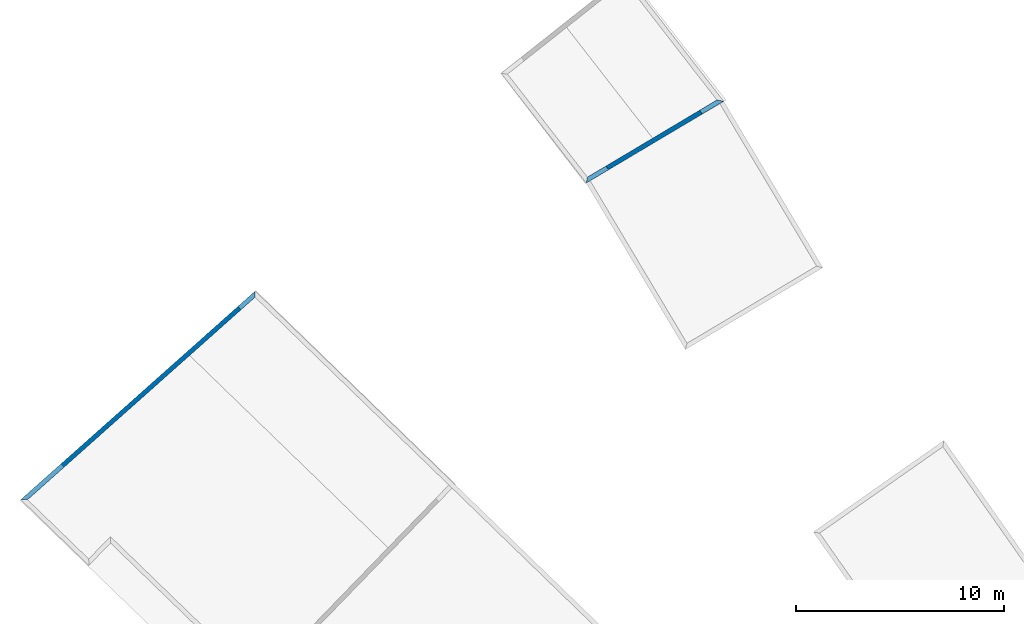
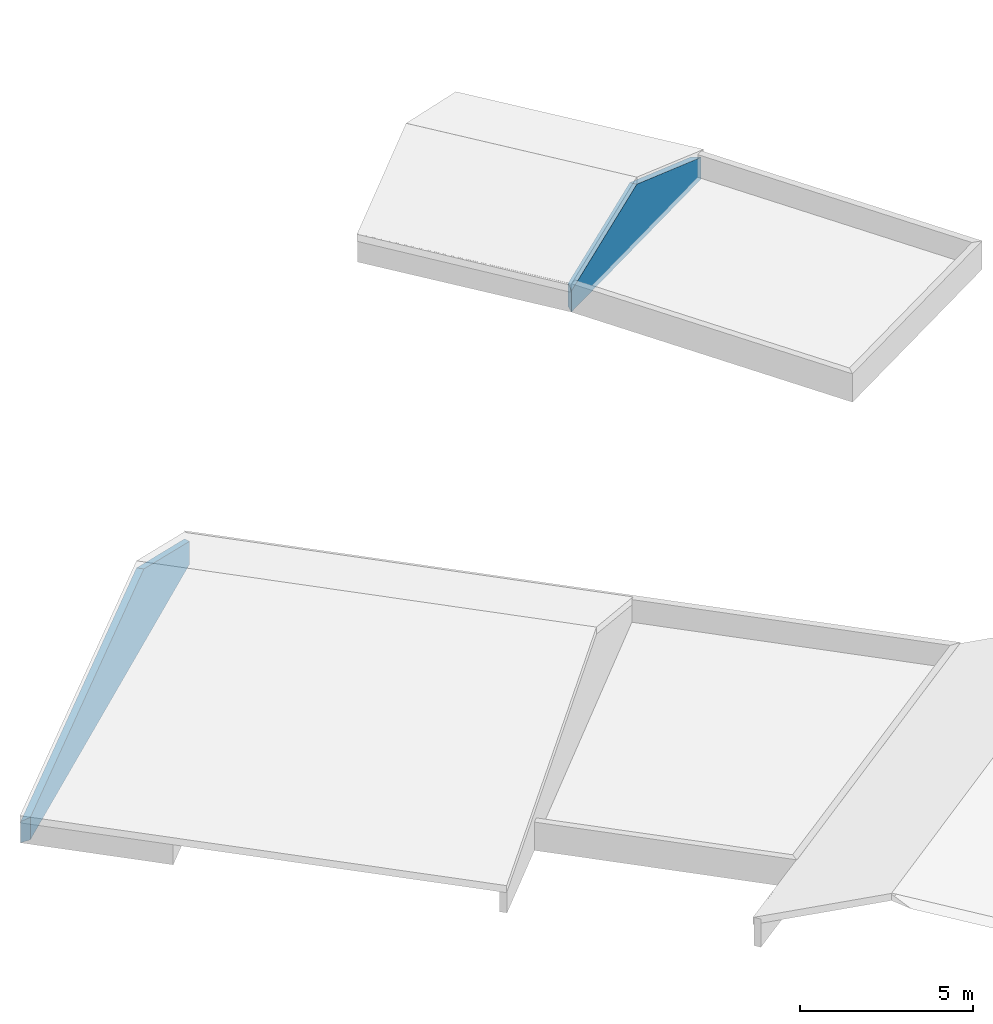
# One storey, part 4 of 4: 2 walls.
"""IFC2X3 building model written with IfcOpenShell, lengths in metres."""

from ifc_helpers import new_model, entity, si_unit, converted_unit, derived_unit, money_unit, direction, frame, origin_with_axes, place, context, subcontext, project, spatial, polyline, outline, extrude, boolean, faceted_brep, material, type_object, element, save


model = new_model("IFC2X3")

# Units and contexts
model_context = context("Model", 3, precision=1e-05, world=origin_with_axes(), true_north=direction((0.0, 1.0)))
body_context = subcontext(model_context, "Body", "Model", "MODEL_VIEW")
ifc_project = project(units=[si_unit("LENGTHUNIT", "METRE"), si_unit("AREAUNIT", "SQUARE_METRE"), si_unit("VOLUMEUNIT", "CUBIC_METRE"), converted_unit("PLANEANGLEUNIT", "DEGREE", entity("IfcPlaneAngleMeasure", 0.0174532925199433), si_unit("PLANEANGLEUNIT", "RADIAN"), dimensions=[0, 0, 0, 0, 0, 0, 0]), money_unit("CHF"), converted_unit("TIMEUNIT", "Year", entity("IfcTimeMeasure", 31557600.0), si_unit("TIMEUNIT", "SECOND"), dimensions=[0, 0, 1, 0, 0, 0, 0]), si_unit("MASSUNIT", "GRAM", prefix="KILO"), si_unit("THERMODYNAMICTEMPERATUREUNIT", "DEGREE_CELSIUS"), si_unit("LUMINOUSINTENSITYUNIT", "LUMEN"), si_unit("ENERGYUNIT", "JOULE", prefix="MEGA"), derived_unit("THERMALCONDUCTANCEUNIT", [(si_unit("POWERUNIT", "WATT"), 1), (si_unit("LENGTHUNIT", "METRE"), -1), (si_unit("THERMODYNAMICTEMPERATUREUNIT", "KELVIN"), -1)]), derived_unit("SPECIFICHEATCAPACITYUNIT", [(si_unit("ENERGYUNIT", "JOULE"), 1), (si_unit("MASSUNIT", "GRAM", prefix="KILO"), -1), (si_unit("THERMODYNAMICTEMPERATUREUNIT", "KELVIN"), -1)]), derived_unit("MASSDENSITYUNIT", [(si_unit("MASSUNIT", "GRAM", prefix="KILO"), 1), (si_unit("VOLUMEUNIT", "CUBIC_METRE"), -1)])], contexts=[model_context])

# Site, building, storey
site_placement = place(None, origin_with_axes())
site = spatial("IfcSite", under=ifc_project, at=site_placement, Name="Site", CompositionType="ELEMENT")
building_placement = place(site_placement, origin_with_axes())
building = spatial("IfcBuilding", under=site, at=building_placement, Name="Bâtiment", CompositionType="ELEMENT")
storey_placement = place(building_placement, frame((0.0, 0.0, 5.5), z_axis=(0.0, 0.0, 1.0), x_axis=(1.0, 0.0, 0.0)))
storey = spatial("IfcBuildingStorey", under=building, at=storey_placement, Name="Etage 2", CompositionType="ELEMENT", Elevation=5.5)

# Walls
ifc_material = material(Name="Empty Fill 3000033799")
wall_type = type_object("IfcWallType", Name="acrotère 22 220", PredefinedType="NOTDEFINED")
wall_1_placement = place(storey_placement, frame((9522.52805632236, -1052.392567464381, 57.7), z_axis=(0.0, 0.0, 1.0), x_axis=(-0.7470589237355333, -0.6647578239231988, 0.0)))
element("IfcWall", 1, at=wall_1_placement, inside=storey, type_object=wall_type, material=ifc_material, Name="Mur-133", context=body_context, shape_type="CSG", body=[
    boolean("DIFFERENCE", extrude(outline(polyline([(-0.01631166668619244, 0.0), (15.08442376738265, 0.0), (15.08442376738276, 0.2200000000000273), (-0.01631166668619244, 0.2199999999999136), (-0.01631166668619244, 0.0)])), origin_with_axes(), (0.0, 0.0, 1.0), 3.0), faceted_brep([(4.596569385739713e-05, 4.949994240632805e-05, 0.0), (4.430470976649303, 0.0, 0.0), (-0.01631166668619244, 0.0, 0.0), (-0.01631166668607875, 0.2199999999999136, 0.0), (0.2042922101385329, 0.2199999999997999, 0.0), (4.596569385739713e-05, 4.949994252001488e-05, 0.7143699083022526), (4.430470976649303, 0.0, 2.629124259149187), (4.430470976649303, 0.0, 2.629531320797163), (15.08442376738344, 0.0, 0.7516713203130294), (15.08442376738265, 0.0, 2.999999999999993), (-0.01631166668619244, 0.0, 2.999999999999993), (-0.01631166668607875, 0.2199999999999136, 2.999999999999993), (0.2042922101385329, 0.2199999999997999, 0.8096897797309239), (15.08442376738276, 0.2199999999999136, 2.999999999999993), (15.08442376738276, 0.2199999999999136, 0.0), (14.84750822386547, 0.2200000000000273, 0.0), (14.84750822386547, 0.2200000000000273, 0.7905548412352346), (4.414159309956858, 0.2199999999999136, 2.629531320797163), (4.414159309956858, 0.2199999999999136, 2.629124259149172), (15.08442376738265, 0.0, 0.0)], [[[0, 1, 2, 3, 4]], [[1, 0, 5, 6]], [[7, 8, 9, 10, 2, 1, 6]], [[11, 3, 2, 10]], [[12, 4, 3, 11, 13, 14, 15, 16, 17, 18]], [[0, 4, 12, 5]], [[12, 18, 6, 5]], [[17, 16, 8, 7]], [[8, 19, 14, 13, 9]], [[11, 10, 9, 13]], [[18, 17, 7, 6]], [[19, 15, 14]], [[16, 15, 19, 8]]])),
])
wall_2_placement = place(storey_placement, frame((9538.445497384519, -1047.204254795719, 57.7), z_axis=(0.0, 0.0, 1.0), x_axis=(0.8590868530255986, 0.5118298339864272, 0.0)))
element("IfcWall", 2, at=wall_2_placement, inside=storey, type_object=wall_type, material=ifc_material, Name="Mur-136", context=body_context, shape_type="CSG", body=[
    boolean("DIFFERENCE", extrude(outline(polyline([(-0.02703515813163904, 0.0), (7.69111338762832, 0.0), (7.69111338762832, 0.2200000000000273), (-0.02703515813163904, 0.2200000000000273), (-0.02703515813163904, 0.0)])), origin_with_axes(), (0.0, 0.0, 1.0), 3.0), faceted_brep([(0.0003643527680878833, 0.0, 0.7486316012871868), (3.875116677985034, 0.0, 2.148299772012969), (7.69111338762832, 0.0, 0.7698557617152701), (7.69111338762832, 0.0, 2.999999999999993), (-0.02703515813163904, 0.0, 2.999999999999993), (-0.02703515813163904, 0.0, 0.0), (0.0003643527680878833, 0.0, 0.0), (0.0003197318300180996, 0.0003614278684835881, 0.7486316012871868), (0.1946197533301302, 0.2199999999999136, 0.8286132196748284), (3.847890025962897, 0.2200000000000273, 2.148275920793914), (3.847890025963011, 0.2199999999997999, 2.148323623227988), (7.442380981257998, 0.2200000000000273, 0.8498936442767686), (7.69111338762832, 0.0, 0.0), (7.69111338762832, 0.2199999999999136, 0.0), (7.69111338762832, 0.2199999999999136, 2.999999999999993), (-0.02703515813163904, 0.2200000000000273, 2.999999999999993), (-0.02703515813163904, 0.2200000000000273, 0.0), (0.0003197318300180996, 0.0003614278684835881, 0.0), (0.1946197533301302, 0.2199999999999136, 0.0), (7.442380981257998, 0.2200000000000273, 0.0)], [[[0, 1, 2, 3, 4, 5, 6]], [[1, 0, 7, 8, 9]], [[2, 1, 10, 11]], [[2, 12, 13, 14, 3]], [[15, 4, 3, 14]], [[15, 16, 5, 4]], [[17, 6, 5, 16, 18]], [[0, 6, 17, 7]], [[18, 8, 7, 17]], [[8, 18, 16, 15, 14, 13, 19, 11, 10, 9]], [[9, 10, 1]], [[12, 2, 11, 19]], [[12, 19, 13]]])),
])

save(model, "model.ifc")
